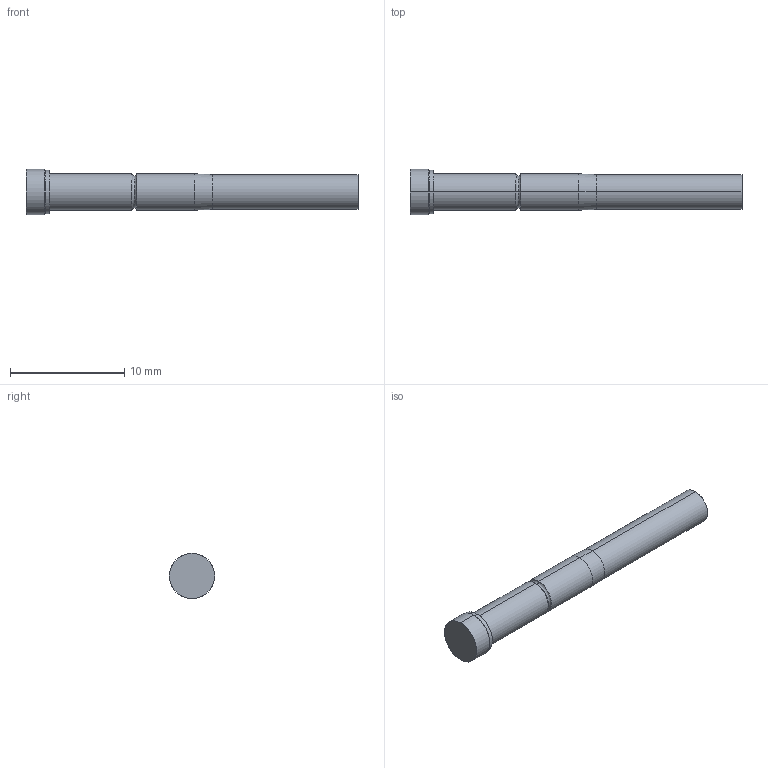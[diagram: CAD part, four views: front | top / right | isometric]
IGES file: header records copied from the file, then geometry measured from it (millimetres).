
Start section: SolidWorks IGES file using analytic representation for surfaces
Global section: file name: O:\PYLON\IGES FILES\P2550\P2550-8 FULL.IGS; native system: SolidWorks 2015; preprocessor: SolidWorks 2015; author: kgolden; date: 171020.104953; units: inch
Bounding box: 29.06 x 3.96 x 3.96 mm (x, y, z)
Surface area: 391.3 mm2 (no closed solid volume)
Topology: 0 solids, 0 shells, 29 faces, 440 edges, 438 vertices
Faces by surface type: revolution 16, bspline 13
